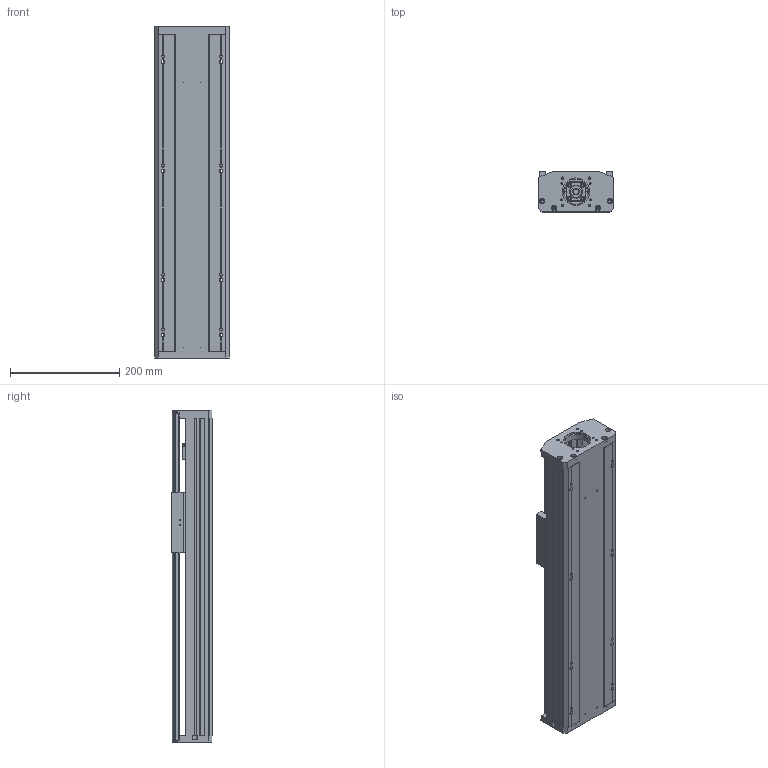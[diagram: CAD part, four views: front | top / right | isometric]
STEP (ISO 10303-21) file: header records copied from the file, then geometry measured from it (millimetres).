
FILE_DESCRIPTION(/* description */ (''),/* implementation_level */ '2;1');
FILE_NAME(/* name */ 'TKA136-F0-350_asm1.stp',/* time_stamp */ '2016-05-07T08:20:45+08:00',/* author */ (''),/* organization */ (''),/* preprocessor_version */ 'ST-DEVELOPER v15',/* originating_system */ 'SIEMENS PLM Software NX 8.5',/* authorisation */ '');
FILE_SCHEMA (('AUTOMOTIVE_DESIGN { 1 0 10303 214 3 1 1 1 }'));
Length unit declared in the file: millimetre
Products named in the file (3): 350-02; 350-01; TKA136-F0-350_asm1
Assembly tree (2 placements, depth 2):
  TKA136-F0-350_asm1
    350-01
    350-02
Bounding box: 136 x 75 x 607 mm (x, y, z)
Volume: 2095705.3 mm3; surface area: 752920.4 mm2
Topology: 2 solids, 12 shells, 797 faces, 2211 edges, 1444 vertices
Faces by surface type: plane 381, cylinder 362, cone 54
Full cylindrical faces by diameter (mm): 2.5 x4, 3 x2, 3.3 x12, 4 x4, 4.2 x10, 4.5 x20, 5 x12, 5.5 x26, 6.6 x12, 8 x20, 10 x9, 10.5 x8, 11 x4, 11.6 x1, 12 x9, 15 x3, 16 x5, 17 x1, 24 x5, 26 x1, 28 x1, 46 x1, 50 x1
Entity records: 26316 total; most frequent: CARTESIAN_POINT 7026, DIRECTION 4007, ORIENTED_EDGE 3712, EDGE_CURVE 1856, AXIS2_PLACEMENT_3D 1523, VERTEX_POINT 1340, EDGE_LOOP 1162, LINE 961
